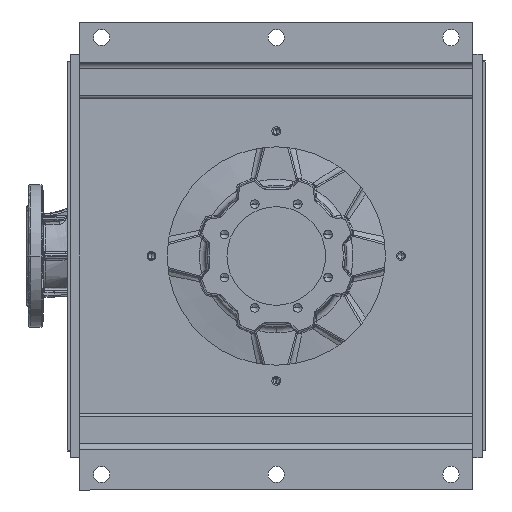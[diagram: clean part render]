
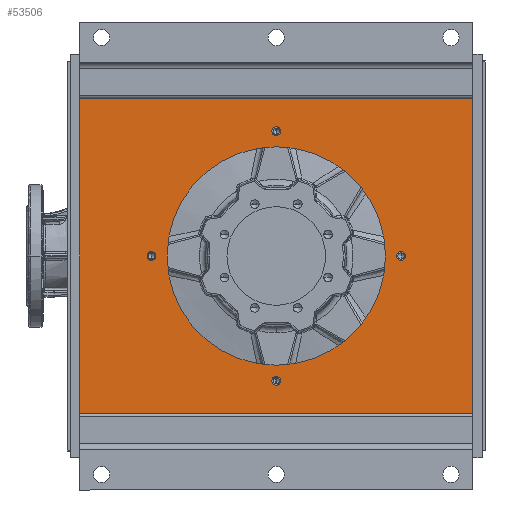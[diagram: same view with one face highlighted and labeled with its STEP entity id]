
A CAD part, front view. The second image highlights one B-rep face of the part: STEP entity #53506.
In plain terms, the highlighted planar face has unit normal (0, -1, 0).
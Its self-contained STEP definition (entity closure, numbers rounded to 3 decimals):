
#464 = VERTEX_POINT ( 'NONE', #28813 ) ;
#2732 = CARTESIAN_POINT ( 'NONE',  ( 200., -517.5, 0. ) ) ;
#3725 = CARTESIAN_POINT ( 'NONE',  ( 175., -517.5, 0. ) ) ;
#7597 = EDGE_LOOP ( 'NONE', ( #30625, #133516 ) ) ;
#7674 = EDGE_CURVE ( 'NONE', #152040, #464, #18712, .T. ) ;
#8914 = VERTEX_POINT ( 'NONE', #138153 ) ;
#10828 = DIRECTION ( 'NONE',  ( 0., 1., 0. ) ) ;
#14817 = DIRECTION ( 'NONE',  ( -1., 0., 0. ) ) ;
#17628 = AXIS2_PLACEMENT_3D ( 'NONE', #128281, #56136, #140350 ) ;
#18262 = DIRECTION ( 'NONE',  ( 0., 1., 0. ) ) ;
#18712 = CIRCLE ( 'NONE', #58690, 7. ) ;
#19241 = CARTESIAN_POINT ( 'NONE',  ( -315., -517.5, -253. ) ) ;
#19358 = VERTEX_POINT ( 'NONE', #144650 ) ;
#20483 = ORIENTED_EDGE ( 'NONE', *, *, #45674, .T. ) ;
#20756 = VERTEX_POINT ( 'NONE', #19241 ) ;
#20925 = CARTESIAN_POINT ( 'NONE',  ( 200., -517.5, 0. ) ) ;
#21814 = CIRCLE ( 'NONE', #101460, 175. ) ;
#23194 = ORIENTED_EDGE ( 'NONE', *, *, #112265, .T. ) ;
#26166 = CARTESIAN_POINT ( 'NONE',  ( 0., -517.5, 0. ) ) ;
#28370 = EDGE_CURVE ( 'NONE', #8914, #66152, #42537, .T. ) ;
#28813 = CARTESIAN_POINT ( 'NONE',  ( 7., -517.5, -200. ) ) ;
#30288 = CARTESIAN_POINT ( 'NONE',  ( -335., -517.5, -312.5 ) ) ;
#30625 = ORIENTED_EDGE ( 'NONE', *, *, #146205, .T. ) ;
#30825 = FACE_OUTER_BOUND ( 'NONE', #76812, .T. ) ;
#31787 = CARTESIAN_POINT ( 'NONE',  ( 0., -517.5, 200. ) ) ;
#32400 = CIRCLE ( 'NONE', #110969, 7. ) ;
#33025 = DIRECTION ( 'NONE',  ( -1., 0., 0. ) ) ;
#37846 = EDGE_CURVE ( 'NONE', #19358, #83705, #62538, .T. ) ;
#37997 = CARTESIAN_POINT ( 'NONE',  ( 207., -517.5, 0. ) ) ;
#38252 = DIRECTION ( 'NONE',  ( -1., 0., 0. ) ) ;
#39699 = ORIENTED_EDGE ( 'NONE', *, *, #114111, .T. ) ;
#42193 = CARTESIAN_POINT ( 'NONE',  ( -315., -517.5, -253. ) ) ;
#42425 = DIRECTION ( 'NONE',  ( -1., 0., 0. ) ) ;
#42537 = CIRCLE ( 'NONE', #144070, 7. ) ;
#42549 = CARTESIAN_POINT ( 'NONE',  ( 315., -517.5, -323. ) ) ;
#43057 = AXIS2_PLACEMENT_3D ( 'NONE', #20925, #105144, #33025 ) ;
#43693 = EDGE_CURVE ( 'NONE', #107524, #155680, #21814, .T. ) ;
#43934 = DIRECTION ( 'NONE',  ( -1., 0., 0. ) ) ;
#45437 = EDGE_LOOP ( 'NONE', ( #70428, #39699 ) ) ;
#45674 = EDGE_CURVE ( 'NONE', #119777, #139286, #32400, .T. ) ;
#47643 = CARTESIAN_POINT ( 'NONE',  ( 0., -517.5, -200. ) ) ;
#49389 = CIRCLE ( 'NONE', #43057, 7. ) ;
#50116 = DIRECTION ( 'NONE',  ( 0., 1., 0. ) ) ;
#50219 = VECTOR ( 'NONE', #143209, 1000. ) ;
#53506 = ADVANCED_FACE ( 'NONE', ( #30825, #138197, #126887, #62846, #94855, #155112 ), #53988, .F. ) ;
#53988 = PLANE ( 'NONE',  #70949 ) ;
#55202 = ORIENTED_EDGE ( 'NONE', *, *, #7674, .T. ) ;
#55343 = EDGE_CURVE ( 'NONE', #66152, #8914, #137779, .T. ) ;
#56136 = DIRECTION ( 'NONE',  ( 0., 1., 0. ) ) ;
#58690 = AXIS2_PLACEMENT_3D ( 'NONE', #47643, #131847, #59715 ) ;
#59715 = DIRECTION ( 'NONE',  ( -1., 0., 0. ) ) ;
#60531 = DIRECTION ( 'NONE',  ( 0., 1., 0. ) ) ;
#60792 = CIRCLE ( 'NONE', #106640, 175. ) ;
#62538 = CIRCLE ( 'NONE', #153055, 7. ) ;
#62846 = FACE_BOUND ( 'NONE', #45437, .T. ) ;
#64367 = EDGE_LOOP ( 'NONE', ( #87579, #154979 ) ) ;
#64880 = VECTOR ( 'NONE', #126390, 1000. ) ;
#65705 = ORIENTED_EDGE ( 'NONE', *, *, #129847, .F. ) ;
#65816 = CIRCLE ( 'NONE', #105790, 7. ) ;
#66152 = VERTEX_POINT ( 'NONE', #77789 ) ;
#67189 = CARTESIAN_POINT ( 'NONE',  ( 315., -517.5, 253. ) ) ;
#68522 = CARTESIAN_POINT ( 'NONE',  ( -207., -517.5, 0. ) ) ;
#69494 = VERTEX_POINT ( 'NONE', #104886 ) ;
#70054 = CIRCLE ( 'NONE', #145245, 7. ) ;
#70428 = ORIENTED_EDGE ( 'NONE', *, *, #37846, .T. ) ;
#70949 = AXIS2_PLACEMENT_3D ( 'NONE', #30288, #114510, #42425 ) ;
#73053 = CARTESIAN_POINT ( 'NONE',  ( 315., -517.5, 253. ) ) ;
#76812 = EDGE_LOOP ( 'NONE', ( #117296, #23194, #65705, #134123 ) ) ;
#77789 = CARTESIAN_POINT ( 'NONE',  ( 7., -517.5, 200. ) ) ;
#79299 = DIRECTION ( 'NONE',  ( -1., 0., 0. ) ) ;
#80609 = VECTOR ( 'NONE', #79299, 1000. ) ;
#82716 = CARTESIAN_POINT ( 'NONE',  ( -315., -517.5, -323. ) ) ;
#83005 = CARTESIAN_POINT ( 'NONE',  ( -200., -517.5, 0. ) ) ;
#83263 = VERTEX_POINT ( 'NONE', #154014 ) ;
#83705 = VERTEX_POINT ( 'NONE', #37997 ) ;
#86988 = DIRECTION ( 'NONE',  ( 0., 1., 0. ) ) ;
#87579 = ORIENTED_EDGE ( 'NONE', *, *, #28370, .T. ) ;
#87753 = EDGE_CURVE ( 'NONE', #145293, #69494, #112575, .T. ) ;
#90357 = CARTESIAN_POINT ( 'NONE',  ( -200., -517.5, 0. ) ) ;
#90653 = EDGE_CURVE ( 'NONE', #464, #152040, #70054, .T. ) ;
#94855 = FACE_BOUND ( 'NONE', #100910, .T. ) ;
#95076 = DIRECTION ( 'NONE',  ( -1., 0., 0. ) ) ;
#100609 = EDGE_LOOP ( 'NONE', ( #20483, #136686 ) ) ;
#100910 = EDGE_LOOP ( 'NONE', ( #55202, #103622 ) ) ;
#101460 = AXIS2_PLACEMENT_3D ( 'NONE', #26166, #110349, #38252 ) ;
#102465 = DIRECTION ( 'NONE',  ( -1., 0., 0. ) ) ;
#103622 = ORIENTED_EDGE ( 'NONE', *, *, #90653, .T. ) ;
#104886 = CARTESIAN_POINT ( 'NONE',  ( -315., -517.5, 253. ) ) ;
#105144 = DIRECTION ( 'NONE',  ( 0., 1., 0. ) ) ;
#105269 = VECTOR ( 'NONE', #150880, 1000. ) ;
#105790 = AXIS2_PLACEMENT_3D ( 'NONE', #90357, #18262, #102465 ) ;
#106640 = AXIS2_PLACEMENT_3D ( 'NONE', #132652, #60531, #144726 ) ;
#107524 = VERTEX_POINT ( 'NONE', #3725 ) ;
#109053 = LINE ( 'NONE', #42549, #105269 ) ;
#110349 = DIRECTION ( 'NONE',  ( 0., 1., 0. ) ) ;
#110969 = AXIS2_PLACEMENT_3D ( 'NONE', #83005, #10828, #95076 ) ;
#112265 = EDGE_CURVE ( 'NONE', #20756, #83263, #128957, .T. ) ;
#112575 = LINE ( 'NONE', #67189, #80609 ) ;
#114111 = EDGE_CURVE ( 'NONE', #83705, #19358, #49389, .T. ) ;
#114510 = DIRECTION ( 'NONE',  ( 0., 1., 0. ) ) ;
#116024 = DIRECTION ( 'NONE',  ( 0., 1., 0. ) ) ;
#117296 = ORIENTED_EDGE ( 'NONE', *, *, #127056, .T. ) ;
#119777 = VERTEX_POINT ( 'NONE', #68522 ) ;
#119873 = CARTESIAN_POINT ( 'NONE',  ( -7., -517.5, -200. ) ) ;
#122224 = CARTESIAN_POINT ( 'NONE',  ( 0., -517.5, -200. ) ) ;
#126390 = DIRECTION ( 'NONE',  ( 1., 0., 0. ) ) ;
#126887 = FACE_BOUND ( 'NONE', #64367, .T. ) ;
#127056 = EDGE_CURVE ( 'NONE', #69494, #20756, #142491, .T. ) ;
#128281 = CARTESIAN_POINT ( 'NONE',  ( 0., -517.5, 200. ) ) ;
#128957 = LINE ( 'NONE', #42193, #64880 ) ;
#129847 = EDGE_CURVE ( 'NONE', #145293, #83263, #109053, .T. ) ;
#131484 = CARTESIAN_POINT ( 'NONE',  ( -193., -517.5, 0. ) ) ;
#131847 = DIRECTION ( 'NONE',  ( 0., 1., 0. ) ) ;
#132652 = CARTESIAN_POINT ( 'NONE',  ( 0., -517.5, 0. ) ) ;
#133232 = EDGE_CURVE ( 'NONE', #139286, #119777, #65816, .T. ) ;
#133516 = ORIENTED_EDGE ( 'NONE', *, *, #43693, .T. ) ;
#134123 = ORIENTED_EDGE ( 'NONE', *, *, #87753, .T. ) ;
#134310 = DIRECTION ( 'NONE',  ( -1., 0., 0. ) ) ;
#136686 = ORIENTED_EDGE ( 'NONE', *, *, #133232, .T. ) ;
#137779 = CIRCLE ( 'NONE', #17628, 7. ) ;
#137872 = CARTESIAN_POINT ( 'NONE',  ( -175., -517.5, 0. ) ) ;
#138153 = CARTESIAN_POINT ( 'NONE',  ( -7., -517.5, 200. ) ) ;
#138197 = FACE_BOUND ( 'NONE', #100609, .T. ) ;
#139286 = VERTEX_POINT ( 'NONE', #131484 ) ;
#140350 = DIRECTION ( 'NONE',  ( -1., 0., 0. ) ) ;
#142491 = LINE ( 'NONE', #82716, #50219 ) ;
#143209 = DIRECTION ( 'NONE',  ( 0., 0., -1. ) ) ;
#144070 = AXIS2_PLACEMENT_3D ( 'NONE', #31787, #116024, #43934 ) ;
#144650 = CARTESIAN_POINT ( 'NONE',  ( 193., -517.5, 0. ) ) ;
#144726 = DIRECTION ( 'NONE',  ( -1., 0., 0. ) ) ;
#145245 = AXIS2_PLACEMENT_3D ( 'NONE', #122224, #50116, #134310 ) ;
#145293 = VERTEX_POINT ( 'NONE', #73053 ) ;
#146205 = EDGE_CURVE ( 'NONE', #155680, #107524, #60792, .T. ) ;
#150880 = DIRECTION ( 'NONE',  ( 0., 0., -1. ) ) ;
#152040 = VERTEX_POINT ( 'NONE', #119873 ) ;
#153055 = AXIS2_PLACEMENT_3D ( 'NONE', #2732, #86988, #14817 ) ;
#154014 = CARTESIAN_POINT ( 'NONE',  ( 315., -517.5, -253. ) ) ;
#154979 = ORIENTED_EDGE ( 'NONE', *, *, #55343, .T. ) ;
#155112 = FACE_BOUND ( 'NONE', #7597, .T. ) ;
#155680 = VERTEX_POINT ( 'NONE', #137872 ) ;
